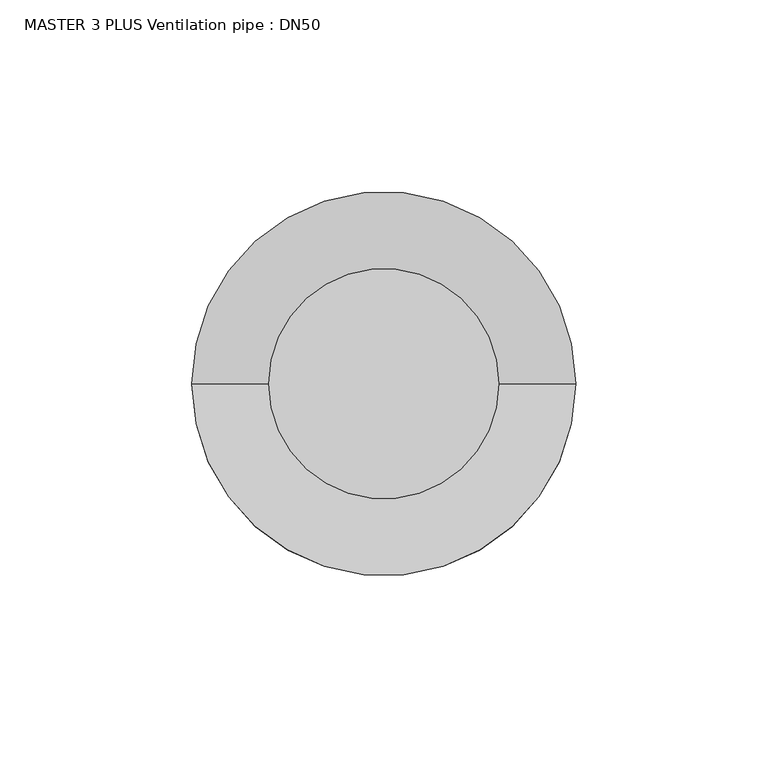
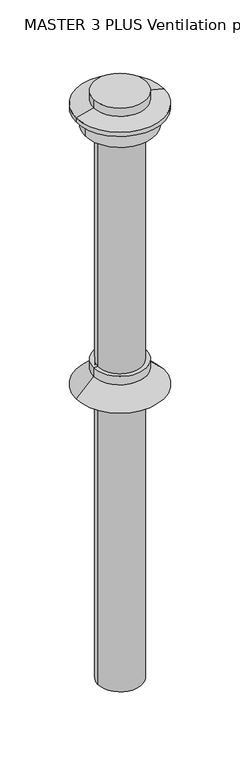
"""IFC4 building model written with IfcOpenShell, lengths in millimetres: valve geometry, MASTER 3 PLUS Ventilation pipe : DN50."""

from ifc_helpers import new_model, si_unit, frame, origin, origin_with_axes, place, context, project, spatial, polyline, circle_curve, source, transform, mapped, element, save
from ifc_brep_helpers import plane_surface, cylinder_surface, revolved_surface, advanced_brep


def master_3_plus_ventilation_pipe_dn50_2c5397d1(model_context):
    return source(origin(), model_context, "Body", "AdvancedBrep", [
        advanced_brep(
        [(30.0, 0.0, 705.0), (-30.0, 0.0, 705.0), (-25.0, 0.0, 0.0), (25.0, 0.0, 0.0), (25.0, 0.0, 664.8236191), (-25.0, 0.0, 664.8236191), (30.0, 0.0, 695.0), (-30.0, 0.0, 695.0), (50.0, 0.0, 689.8236191), (-50.0, 0.0, 689.8236191), (50.0, 0.0, 684.8236191), (-50.0, 0.0, 684.8236191), (40.0, 0.0, 684.8236191), (-40.0, 0.0, 684.8236191), (40.0, 0.0, 664.8236191), (-40.0, 0.0, 664.8236191)],
        [
            (0, 1, circle_curve(frame((0.0, 0.0, 705.0), z_axis=(0.0, 0.0, 1.0), x_axis=(-1.0, 0.0, 0.0)), 30.0)),
            (1, 0, circle_curve(frame((0.0, 0.0, 705.0), z_axis=(0.0, 0.0, 1.0), x_axis=(-1.0, 0.0, 0.0)), 30.0)),
            (2, 3, circle_curve(frame((0.0, 0.0, 0.0), z_axis=(0.0, 0.0, -1.0), x_axis=(1.0, 0.0, 0.0)), 25.0)),
            (3, 2, circle_curve(frame((0.0, 0.0, 0.0), z_axis=(0.0, 0.0, -1.0), x_axis=(1.0, 0.0, 0.0)), 25.0)),
            (3, 4),
            (4, 5, circle_curve(frame((0.0, 0.0, 664.8236191), z_axis=(0.0, 0.0, -1.0), x_axis=(1.0, 0.0, 0.0)), 25.0)),
            (5, 2),
            (5, 4, circle_curve(frame((0.0, 0.0, 664.8236191), z_axis=(0.0, 0.0, -1.0), x_axis=(1.0, 0.0, 0.0)), 25.0)),
            (6, 7, circle_curve(frame((0.0, 0.0, 695.0), z_axis=(0.0, 0.0, 1.0), x_axis=(-1.0, 0.0, 0.0)), 30.0)),
            (7, 1),
            (0, 6),
            (7, 6, circle_curve(frame((0.0, 0.0, 695.0), z_axis=(0.0, 0.0, 1.0), x_axis=(-1.0, 0.0, 0.0)), 30.0)),
            (6, 8),
            (8, 9, circle_curve(frame((0.0, 0.0, 689.8236191), z_axis=(0.0, 0.0, 1.0), x_axis=(-1.0, 0.0, 0.0)), 50.0)),
            (9, 7),
            (9, 8, circle_curve(frame((0.0, 0.0, 689.8236191), z_axis=(0.0, 0.0, 1.0), x_axis=(-1.0, 0.0, 0.0)), 50.0)),
            (8, 10),
            (10, 11, circle_curve(frame((0.0, 0.0, 684.8236191), z_axis=(0.0, 0.0, 1.0), x_axis=(-1.0, 0.0, 0.0)), 50.0)),
            (11, 9),
            (11, 10, circle_curve(frame((0.0, 0.0, 684.8236191), z_axis=(0.0, 0.0, 1.0), x_axis=(-1.0, 0.0, 0.0)), 50.0)),
            (10, 12),
            (12, 13, circle_curve(frame((0.0, 0.0, 684.8236191), z_axis=(0.0, 0.0, 1.0), x_axis=(-1.0, 0.0, 0.0)), 40.0)),
            (13, 11),
            (13, 12, circle_curve(frame((0.0, 0.0, 684.8236191), z_axis=(0.0, 0.0, 1.0), x_axis=(-1.0, 0.0, 0.0)), 40.0)),
            (12, 14),
            (14, 15, circle_curve(frame((0.0, 0.0, 664.8236191), z_axis=(0.0, 0.0, 1.0), x_axis=(-1.0, 0.0, 0.0)), 40.0)),
            (15, 13),
            (15, 14, circle_curve(frame((0.0, 0.0, 664.8236191), z_axis=(0.0, 0.0, 1.0), x_axis=(-1.0, 0.0, 0.0)), 40.0)),
            (14, 4),
            (5, 15),
        ],
        [
            plane_surface(frame((25.0, 0.0, 705.0), z_axis=(0.0, 0.0, 1.0), x_axis=(0.0, 1.0, 0.0))),
            plane_surface(frame((25.0, 0.0, 0.0), z_axis=(0.0, 0.0, -1.0), x_axis=(0.0, -1.0, 0.0))),
            cylinder_surface(origin_with_axes(), 25.0),
            cylinder_surface(frame((0.0, 0.0, 705.0), z_axis=(0.0, 0.0, -1.0), x_axis=(-1.0, 0.0, 0.0)), 30.0),
            revolved_surface(polyline([(-30.0, 0.0, 695.0), (-50.0, 0.0, 689.8236191)]), (0.0, 0.0, 705.0), (0.0, 0.0, -1.0)),
            cylinder_surface(frame((0.0, 0.0, 705.0), z_axis=(0.0, 0.0, -1.0), x_axis=(-1.0, 0.0, 0.0)), 50.0),
            plane_surface(frame((0.0, 0.0, 684.8236191), z_axis=(0.0, 0.0, -1.0), x_axis=(-1.0, 0.0, 0.0))),
            cylinder_surface(frame((0.0, 0.0, 705.0), z_axis=(0.0, 0.0, -1.0), x_axis=(-1.0, 0.0, 0.0)), 40.0),
            plane_surface(frame((0.0, 0.0, 664.8236191), z_axis=(0.0, 0.0, -1.0), x_axis=(-1.0, 0.0, 0.0))),
        ],
        [
            (0, [[1, 2]]),
            (1, [[3, 4]]),
            (2, [[-4, 5, 6, 7]]),
            (2, [[-3, -7, 8, -5]]),
            (3, [[9, 10, -1, 11]]),
            (3, [[-10, 12, -11, -2]]),
            (4, [[-9, 13, 14, 15]]),
            (4, [[-12, -15, 16, -13]]),
            (5, [[-14, 17, 18, 19]]),
            (5, [[-16, -19, 20, -17]]),
            (6, [[-18, 21, 22, 23]]),
            (6, [[-20, -23, 24, -21]]),
            (7, [[-22, 25, 26, 27]]),
            (7, [[-24, -27, 28, -25]]),
            (8, [[-26, 29, -8, 30]]),
            (8, [[-28, -30, -6, -29]]),
        ],
    ),
        advanced_brep(
        [(30.0, 0.0, 372.5), (-30.0, 0.0, 372.5), (-30.0, 0.0, 382.5), (30.0, 0.0, 382.5), (50.0, 0.0, 352.5), (-50.0, 0.0, 352.5), (0.0, 0.0, 352.5), (0.0, 0.0, 382.5)],
        [
            (0, 1, circle_curve(frame((0.0, 0.0, 372.5), z_axis=(0.0, 0.0, 1.0), x_axis=(-1.0, 0.0, 0.0)), 30.0)),
            (1, 2),
            (2, 3, circle_curve(frame((0.0, 0.0, 382.5), z_axis=(0.0, 0.0, -1.0), x_axis=(-1.0, 0.0, 0.0)), 30.0)),
            (3, 0),
            (1, 0, circle_curve(frame((0.0, 0.0, 372.5), z_axis=(0.0, 0.0, 1.0), x_axis=(-1.0, 0.0, 0.0)), 30.0)),
            (3, 2, circle_curve(frame((0.0, 0.0, 382.5), z_axis=(0.0, 0.0, -1.0), x_axis=(-1.0, 0.0, 0.0)), 30.0)),
            (4, 5, circle_curve(frame((0.0, 0.0, 352.5), z_axis=(0.0, 0.0, 1.0), x_axis=(-1.0, 0.0, 0.0)), 50.0)),
            (5, 1),
            (0, 4),
            (5, 4, circle_curve(frame((0.0, 0.0, 352.5), z_axis=(0.0, 0.0, 1.0), x_axis=(-1.0, 0.0, 0.0)), 50.0)),
            (6, 5),
            (4, 6),
            (2, 7),
            (7, 3),
        ],
        [
            cylinder_surface(frame((0.0, 0.0, 382.5), z_axis=(0.0, 0.0, -1.0), x_axis=(-1.0, 0.0, 0.0)), 30.0),
            revolved_surface(polyline([(-30.0, 0.0, 372.5), (-50.0, 0.0, 352.5)]), (0.0, 0.0, 382.5), (0.0, 0.0, -1.0)),
            plane_surface(frame((0.0, 0.0, 352.5), z_axis=(0.0, 0.0, -1.0), x_axis=(-1.0, 0.0, 0.0))),
            plane_surface(frame((0.0, 0.0, 382.5), z_axis=(0.0, 0.0, 1.0), x_axis=(-1.0, 0.0, 0.0))),
        ],
        [
            (0, [[1, 2, 3, 4]]),
            (0, [[5, -4, 6, -2]]),
            (1, [[7, 8, -1, 9]]),
            (1, [[10, -9, -5, -8]]),
            (2, [[11, -7, 12]]),
            (2, [[-12, -10, -11]]),
            (3, [[-3, 13, 14]]),
            (3, [[-6, -14, -13]]),
        ],
    ),
    ])


if __name__ == "__main__":
    model = new_model("IFC4")
    model_context = context("Model", 3, world=origin())
    ifc_project = project(units=[si_unit("LENGTHUNIT", "METRE", prefix="MILLI")], contexts=[model_context])
    site = spatial("IfcSite", under=ifc_project)
    building = spatial("IfcBuilding", under=site)
    placement = place(None, origin())
    master_3_plus_ventilation_pipe_dn50_shape = master_3_plus_ventilation_pipe_dn50_2c5397d1(model_context)
    element("IfcValve", 1, ObjectType="MASTER 3 PLUS Ventilation pipe : DN50", at=placement, inside=building, context=model_context, shape_type="MappedRepresentation", body=[
        mapped(master_3_plus_ventilation_pipe_dn50_shape, transform((0.0, 0.0, 0.0), x_axis=(1.0, 0.0, 0.0), y_axis=(0.0, 1.0, 0.0), z_axis=(0.0, 0.0, 1.0))),
    ])
    save(model, "model.ifc")
